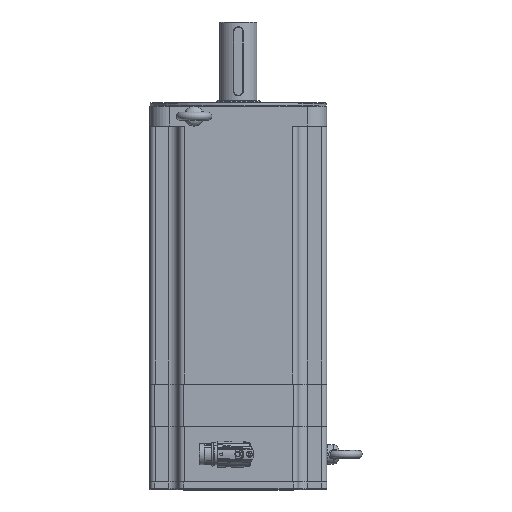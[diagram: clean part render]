
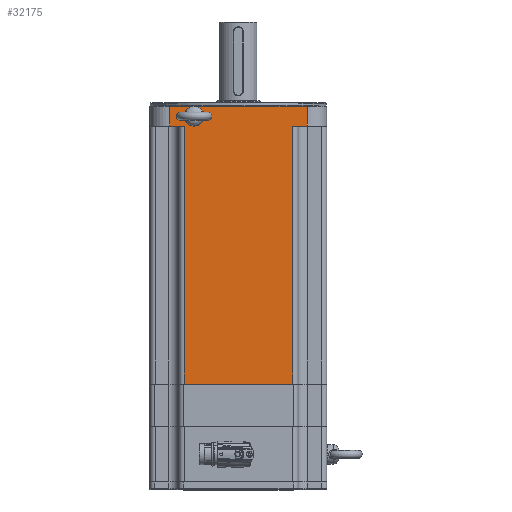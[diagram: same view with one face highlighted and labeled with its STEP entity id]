
A CAD part, top view. The second image highlights one B-rep face of the part: STEP entity #32175.
In plain terms, the highlighted planar face has unit normal (0, 0, 1).
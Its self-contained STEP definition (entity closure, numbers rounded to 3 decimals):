
#2277=PLANE('',#45772);
#3727=CIRCLE('',#45773,3.324);
#10869=ORIENTED_EDGE('',*,*,#16688,.T.);
#10870=ORIENTED_EDGE('',*,*,#16597,.F.);
#10871=ORIENTED_EDGE('',*,*,#16689,.T.);
#10872=ORIENTED_EDGE('',*,*,#16629,.F.);
#10873=ORIENTED_EDGE('',*,*,#16690,.T.);
#10874=ORIENTED_EDGE('',*,*,#16691,.F.);
#10875=ORIENTED_EDGE('',*,*,#16692,.T.);
#10876=ORIENTED_EDGE('',*,*,#16637,.F.);
#10877=ORIENTED_EDGE('',*,*,#16693,.T.);
#16597=EDGE_CURVE('',#20180,#20181,#22759,.T.);
#16629=EDGE_CURVE('',#20212,#20213,#22772,.T.);
#16637=EDGE_CURVE('',#20220,#20221,#22775,.T.);
#16688=EDGE_CURVE('',#20258,#20258,#3727,.T.);
#16689=EDGE_CURVE('',#20180,#20213,#22806,.F.);
#16690=EDGE_CURVE('',#20212,#20259,#22807,.T.);
#16691=EDGE_CURVE('',#20260,#20259,#22808,.T.);
#16692=EDGE_CURVE('',#20260,#20221,#22809,.F.);
#16693=EDGE_CURVE('',#20220,#20181,#22810,.T.);
#20180=VERTEX_POINT('',#68720);
#20181=VERTEX_POINT('',#68721);
#20212=VERTEX_POINT('',#68790);
#20213=VERTEX_POINT('',#68792);
#20220=VERTEX_POINT('',#68809);
#20221=VERTEX_POINT('',#68810);
#20258=VERTEX_POINT('',#68913);
#20259=VERTEX_POINT('',#68916);
#20260=VERTEX_POINT('',#68918);
#22759=LINE('',#68719,#24931);
#22772=LINE('',#68791,#24944);
#22775=LINE('',#68808,#24947);
#22806=LINE('',#68914,#24978);
#22807=LINE('',#68915,#24979);
#22808=LINE('',#68917,#24980);
#22809=LINE('',#68919,#24981);
#22810=LINE('',#68920,#24982);
#24931=VECTOR('',#53370,1000.);
#24944=VECTOR('',#53435,1000.);
#24947=VECTOR('',#53452,1000.);
#24978=VECTOR('',#53555,1000.);
#24979=VECTOR('',#53556,1000.);
#24980=VECTOR('',#53557,1000.);
#24981=VECTOR('',#53558,1000.);
#24982=VECTOR('',#53559,1000.);
#27105=EDGE_LOOP('',(#10869));
#27106=EDGE_LOOP('',(#10870,#10871,#10872,#10873,#10874,#10875,#10876,#10877));
#29559=FACE_BOUND('',#27105,.T.);
#29560=FACE_BOUND('',#27106,.T.);
#32175=ADVANCED_FACE('',(#29559,#29560),#2277,.T.);
#45772=AXIS2_PLACEMENT_3D('',#68911,#53551,#53552);
#45773=AXIS2_PLACEMENT_3D('',#68912,#53553,#53554);
#53370=DIRECTION('',(1.,0.,0.));
#53435=DIRECTION('',(1.,0.,0.));
#53452=DIRECTION('',(1.,0.,0.));
#53551=DIRECTION('',(0.,0.,1.));
#53552=DIRECTION('',(1.,0.,0.));
#53553=DIRECTION('',(0.,0.,-1.));
#53554=DIRECTION('',(0.,-1.,0.));
#53555=DIRECTION('',(0.,1.,0.));
#53556=DIRECTION('',(0.,-1.,0.));
#53557=DIRECTION('',(-1.,0.,0.));
#53558=DIRECTION('',(0.,-1.,0.));
#53559=DIRECTION('',(0.,1.,0.));
#68719=CARTESIAN_POINT('',(90.,283.8,90.));
#68720=CARTESIAN_POINT('',(-55.2,283.8,90.));
#68721=CARTESIAN_POINT('',(55.2,283.8,90.));
#68790=CARTESIAN_POINT('',(-70.,21.3,90.));
#68791=CARTESIAN_POINT('',(90.,21.3,90.));
#68792=CARTESIAN_POINT('',(-55.2,21.3,90.));
#68808=CARTESIAN_POINT('',(90.,21.3,90.));
#68809=CARTESIAN_POINT('',(55.2,21.3,90.));
#68810=CARTESIAN_POINT('',(70.,21.3,90.));
#68911=CARTESIAN_POINT('',(90.,488.463,90.));
#68912=CARTESIAN_POINT('',(45.,11.3,90.));
#68913=CARTESIAN_POINT('',(45.,7.976,90.));
#68914=CARTESIAN_POINT('',(-55.2,488.463,90.));
#68915=CARTESIAN_POINT('',(-70.,488.463,90.));
#68916=CARTESIAN_POINT('',(-70.,1.3,90.));
#68917=CARTESIAN_POINT('',(90.,1.3,90.));
#68918=CARTESIAN_POINT('',(70.,1.3,90.));
#68919=CARTESIAN_POINT('',(70.,488.463,90.));
#68920=CARTESIAN_POINT('',(55.2,488.463,90.));
